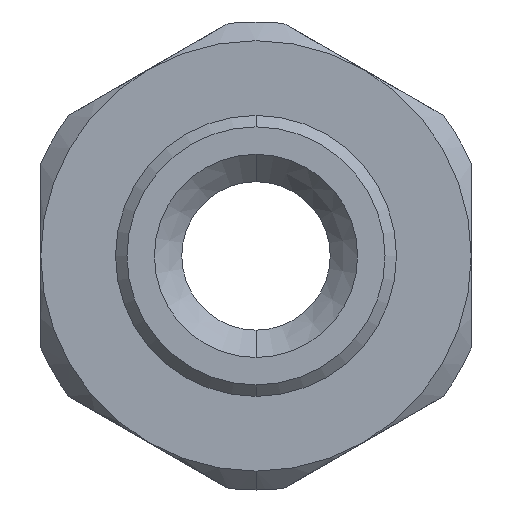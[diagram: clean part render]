
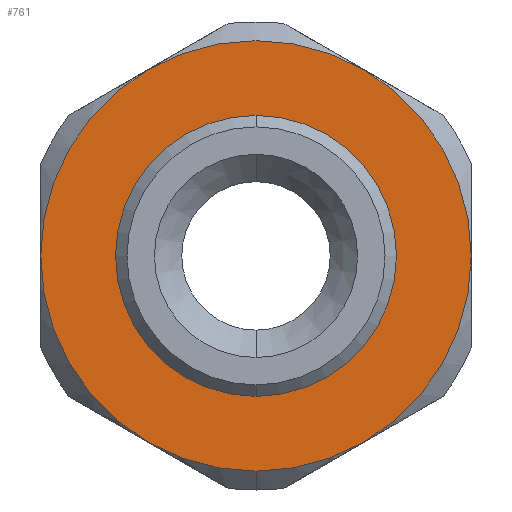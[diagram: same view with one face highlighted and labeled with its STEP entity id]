
A CAD part, front view. The second image highlights one B-rep face of the part: STEP entity #761.
In plain terms, the highlighted planar face has unit normal (0, -1, 0).
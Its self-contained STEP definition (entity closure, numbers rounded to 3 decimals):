
#66 = AXIS2_PLACEMENT_3D ( 'NONE', #1873, #1997, #1974 ) ;
#186 = AXIS2_PLACEMENT_3D ( 'NONE', #1696, #1692, #1691 ) ;
#187 = FACE_OUTER_BOUND ( 'NONE', #1493, .T. ) ;
#191 = FACE_BOUND ( 'NONE', #1499, .T. ) ;
#207 = AXIS2_PLACEMENT_3D ( 'NONE', #1631, #1632, #1633 ) ;
#371 = AXIS2_PLACEMENT_3D ( 'NONE', #648, #636, #642 ) ;
#374 = AXIS2_PLACEMENT_3D ( 'NONE', #638, #629, #624 ) ;
#401 = AXIS2_PLACEMENT_3D ( 'NONE', #623, #622, #621 ) ;
#407 = AXIS2_PLACEMENT_3D ( 'NONE', #2282, #2281, #2280 ) ;
#409 = AXIS2_PLACEMENT_3D ( 'NONE', #2285, #2284, #2283 ) ;
#414 = AXIS2_PLACEMENT_3D ( 'NONE', #2143, #2136, #2139 ) ;
#441 = AXIS2_PLACEMENT_3D ( 'NONE', #659, #658, #660 ) ;
#484 = CIRCLE ( 'NONE', #414, 9.425 ) ;
#489 = CIRCLE ( 'NONE', #407, 6.15 ) ;
#491 = CIRCLE ( 'NONE', #409, 9.425 ) ;
#502 = CIRCLE ( 'NONE', #374, 9.425 ) ;
#504 = CIRCLE ( 'NONE', #371, 9.425 ) ;
#507 = CIRCLE ( 'NONE', #441, 9.425 ) ;
#509 = CIRCLE ( 'NONE', #401, 9.425 ) ;
#540 = CIRCLE ( 'NONE', #66, 9.425 ) ;
#554 = CIRCLE ( 'NONE', #207, 6.15 ) ;
#621 = DIRECTION ( 'NONE',  ( 0., 0., -1. ) ) ;
#622 = DIRECTION ( 'NONE',  ( 0., -1., 0. ) ) ;
#623 = CARTESIAN_POINT ( 'NONE',  ( 0., 1., 0. ) ) ;
#624 = DIRECTION ( 'NONE',  ( 0., 0., -1. ) ) ;
#629 = DIRECTION ( 'NONE',  ( 0., -1., 0. ) ) ;
#636 = DIRECTION ( 'NONE',  ( 0., -1., 0. ) ) ;
#638 = CARTESIAN_POINT ( 'NONE',  ( 0., 1., 0. ) ) ;
#642 = DIRECTION ( 'NONE',  ( 0., 0., -1. ) ) ;
#648 = CARTESIAN_POINT ( 'NONE',  ( 0., 1., 0. ) ) ;
#658 = DIRECTION ( 'NONE',  ( 0., -1., 0. ) ) ;
#659 = CARTESIAN_POINT ( 'NONE',  ( 0., 1., 0. ) ) ;
#660 = DIRECTION ( 'NONE',  ( 0., 0., -1. ) ) ;
#749 = EDGE_CURVE ( 'NONE', #1031, #1042, #554, .T. ) ;
#761 = ADVANCED_FACE ( 'NONE', ( #191, #187 ), #1683, .F. ) ;
#810 = EDGE_CURVE ( 'NONE', #1106, #1086, #540, .T. ) ;
#885 = EDGE_CURVE ( 'NONE', #1089, #1010, #509, .T. ) ;
#887 = EDGE_CURVE ( 'NONE', #1086, #1103, #507, .T. ) ;
#892 = EDGE_CURVE ( 'NONE', #1103, #1089, #504, .T. ) ;
#896 = EDGE_CURVE ( 'NONE', #1021, #1091, #502, .T. ) ;
#925 = EDGE_CURVE ( 'NONE', #1091, #1106, #491, .T. ) ;
#926 = EDGE_CURVE ( 'NONE', #1042, #1031, #489, .T. ) ;
#932 = EDGE_CURVE ( 'NONE', #1010, #1021, #484, .T. ) ;
#1010 = VERTEX_POINT ( 'NONE', #2126 ) ;
#1021 = VERTEX_POINT ( 'NONE', #2245 ) ;
#1031 = VERTEX_POINT ( 'NONE', #2235 ) ;
#1042 = VERTEX_POINT ( 'NONE', #2225 ) ;
#1086 = VERTEX_POINT ( 'NONE', #2191 ) ;
#1089 = VERTEX_POINT ( 'NONE', #2188 ) ;
#1091 = VERTEX_POINT ( 'NONE', #2186 ) ;
#1103 = VERTEX_POINT ( 'NONE', #2174 ) ;
#1106 = VERTEX_POINT ( 'NONE', #2171 ) ;
#1139 = ORIENTED_EDGE ( 'NONE', *, *, #896, .T. ) ;
#1140 = ORIENTED_EDGE ( 'NONE', *, *, #892, .T. ) ;
#1143 = ORIENTED_EDGE ( 'NONE', *, *, #925, .T. ) ;
#1145 = ORIENTED_EDGE ( 'NONE', *, *, #887, .T. ) ;
#1149 = ORIENTED_EDGE ( 'NONE', *, *, #810, .T. ) ;
#1150 = ORIENTED_EDGE ( 'NONE', *, *, #885, .T. ) ;
#1158 = ORIENTED_EDGE ( 'NONE', *, *, #932, .T. ) ;
#1493 = EDGE_LOOP ( 'NONE', ( #1143, #1149, #1145, #1140, #1150, #1158, #1139 ) ) ;
#1499 = EDGE_LOOP ( 'NONE', ( #1536, #1533 ) ) ;
#1533 = ORIENTED_EDGE ( 'NONE', *, *, #926, .F. ) ;
#1536 = ORIENTED_EDGE ( 'NONE', *, *, #749, .F. ) ;
#1631 = CARTESIAN_POINT ( 'NONE',  ( 0., 1., 0. ) ) ;
#1632 = DIRECTION ( 'NONE',  ( 0., -1., 0. ) ) ;
#1633 = DIRECTION ( 'NONE',  ( 0., 0., -1. ) ) ;
#1683 = PLANE ( 'NONE',  #186 ) ;
#1691 = DIRECTION ( 'NONE',  ( 0., 0., 1. ) ) ;
#1692 = DIRECTION ( 'NONE',  ( 0., 1., 0. ) ) ;
#1696 = CARTESIAN_POINT ( 'NONE',  ( -10.25, 1., 0. ) ) ;
#1873 = CARTESIAN_POINT ( 'NONE',  ( 0., 1., 0. ) ) ;
#1974 = DIRECTION ( 'NONE',  ( 0., 0., -1. ) ) ;
#1997 = DIRECTION ( 'NONE',  ( 0., -1., 0. ) ) ;
#2126 = CARTESIAN_POINT ( 'NONE',  ( 0., 1., -9.425 ) ) ;
#2136 = DIRECTION ( 'NONE',  ( 0., -1., 0. ) ) ;
#2139 = DIRECTION ( 'NONE',  ( 0., 0., -1. ) ) ;
#2143 = CARTESIAN_POINT ( 'NONE',  ( 0., 1., 0. ) ) ;
#2171 = CARTESIAN_POINT ( 'NONE',  ( 4.712, 1., 8.162 ) ) ;
#2174 = CARTESIAN_POINT ( 'NONE',  ( -9.425, 1., 0. ) ) ;
#2186 = CARTESIAN_POINT ( 'NONE',  ( 9.425, 1., 0. ) ) ;
#2188 = CARTESIAN_POINT ( 'NONE',  ( -4.713, 1., -8.162 ) ) ;
#2191 = CARTESIAN_POINT ( 'NONE',  ( -4.713, 1., 8.162 ) ) ;
#2225 = CARTESIAN_POINT ( 'NONE',  ( 0., 1., 6.15 ) ) ;
#2235 = CARTESIAN_POINT ( 'NONE',  ( 0., 1., -6.15 ) ) ;
#2245 = CARTESIAN_POINT ( 'NONE',  ( 4.713, 1., -8.162 ) ) ;
#2280 = DIRECTION ( 'NONE',  ( 0., 0., -1. ) ) ;
#2281 = DIRECTION ( 'NONE',  ( 0., -1., 0. ) ) ;
#2282 = CARTESIAN_POINT ( 'NONE',  ( 0., 1., 0. ) ) ;
#2283 = DIRECTION ( 'NONE',  ( 0., 0., -1. ) ) ;
#2284 = DIRECTION ( 'NONE',  ( 0., -1., 0. ) ) ;
#2285 = CARTESIAN_POINT ( 'NONE',  ( 0., 1., 0. ) ) ;
